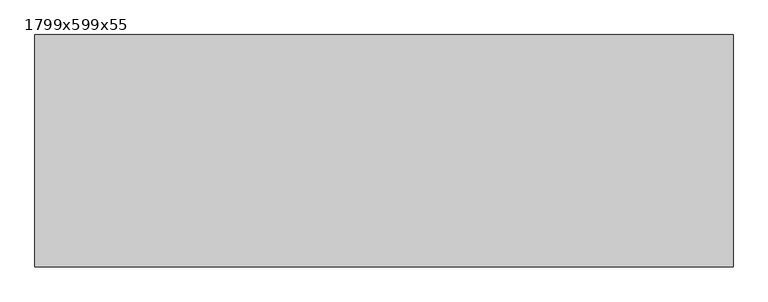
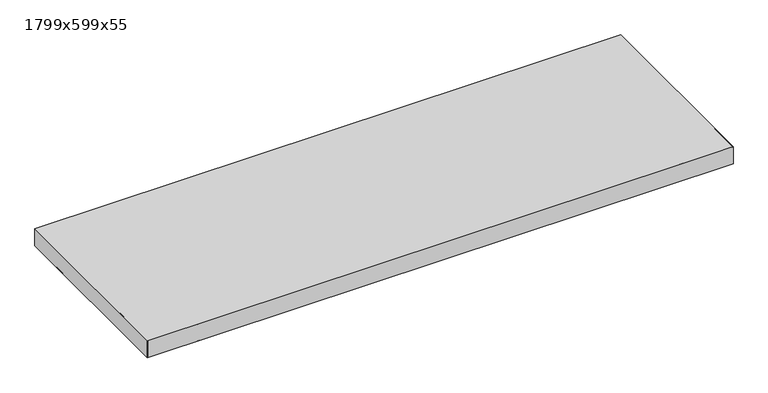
"""IFC4 building model written with IfcOpenShell, lengths in millimetres: proxy geometry, Texaa Panneaux Stereo fixés contre support par système magnétique séparés ou groupés au mur : 1799x599x55."""

from ifc_helpers import new_model, si_unit, frame, origin, place, context, project, spatial, polyline, outline, extrude, faceted_brep, source, transform, mapped, element, save


def proxy_1799x599x55_90c91e49(model_context):
    return source(origin(), model_context, "Body", "SolidModel", [
        extrude(outline(polyline([(-898.5, 298.5), (898.5, 298.5), (898.5, -298.5), (-898.5, -298.5), (-898.5, 298.5)])), frame((0.0, 0.0, 11.0), z_axis=(0.0, 0.0, 1.0), x_axis=(1.0, 0.0, 0.0)), (0.0, 0.0, 1.0), 53.0),
        faceted_brep([(899.5, -299.5, 65.0), (899.5, 299.5, 65.0), (-899.5, 299.5, 65.0), (-899.5, 298.4460246, 65.0), (-899.5, 297.3920491, 65.0), (-899.5, 246.8012287, 65.0), (-899.5, -299.5, 65.0), (741.2277303, -299.5, 65.0), (893.1691092, -299.5, 65.0), (896.3345546, -299.5, 65.0), (-899.5, 299.5, 10.0), (899.5, 299.5, 10.0), (899.5, -299.5, 10.0), (-899.5, -299.5, 10.0), (-849.5, -249.5, 10.0), (849.5, -249.5, 10.0), (849.5, 249.5, 10.0), (-849.5, 249.5, 10.0), (-899.5, 299.5, 64.0), (899.5, -299.5, 64.0), (-849.5, -249.5, 11.0), (849.5, -249.5, 11.0), (849.5, 249.5, 11.0), (-849.5, 249.5, 11.0), (898.5, 298.5, 64.0), (898.5, -298.5, 64.0), (896.4966611, -298.5, 64.0), (893.3312157, -298.5, 64.0), (890.1657703, -298.5, 64.0), (738.2243914, -298.5, 64.0), (-898.5, -298.5, 64.0), (-898.5, 246.468266, 64.0), (-898.5, 297.0590864, 64.0), (-898.5, 298.1130618, 64.0), (-898.5, 298.5, 64.0), (-896.4966611, 298.5, 64.0), (-898.5, 298.5, 11.0), (-898.5, -298.5, 11.0), (898.5, -298.5, 11.0), (898.5, 298.5, 11.0)], [[[0, 1, 2, 3, 4, 5, 6, 7, 8, 9]], [[10, 11, 12, 13], [14, 15, 16, 17]], [[10, 13, 6, 5, 4, 3, 2, 18]], [[13, 12, 19, 0, 9, 8, 7, 6]], [[1, 0, 19, 12, 11]], [[2, 1, 11, 10, 18]], [[14, 20, 21, 15]], [[15, 21, 22, 16]], [[16, 22, 23, 17]], [[20, 14, 17, 23]], [[24, 25, 26, 27, 28, 29, 30, 31, 32, 33, 34, 35]], [[36, 37, 38, 39], [21, 20, 23, 22]], [[37, 36, 34, 33, 32, 31, 30]], [[38, 37, 30, 29, 28, 27, 26, 25]], [[25, 24, 39, 38]], [[36, 39, 24, 35, 34]]]),
    ])


if __name__ == "__main__":
    model = new_model("IFC4")
    model_context = context("Model", 3, world=origin())
    ifc_project = project(units=[si_unit("LENGTHUNIT", "METRE", prefix="MILLI")], contexts=[model_context])
    site = spatial("IfcSite", under=ifc_project)
    building = spatial("IfcBuilding", under=site)
    placement = place(None, origin())
    proxy_1799x599x55_shape = proxy_1799x599x55_90c91e49(model_context)
    element("IfcBuildingElementProxy", 1, Name="Texaa Panneaux Stereo fixés contre support par système magnétique séparés ou groupés au mur : 1799x599x55", ObjectType="Texaa Panneaux Stereo fixés contre support par système magnétique séparés ou groupés au mur : 1799x599x55", at=placement, inside=building, context=model_context, shape_type="MappedRepresentation", body=[
        mapped(proxy_1799x599x55_shape, transform((0.0, 0.0, 0.0), x_axis=(1.0, 0.0, 0.0), y_axis=(0.0, 1.0, 0.0), z_axis=(0.0, 0.0, 1.0))),
    ])
    save(model, "model.ifc")
